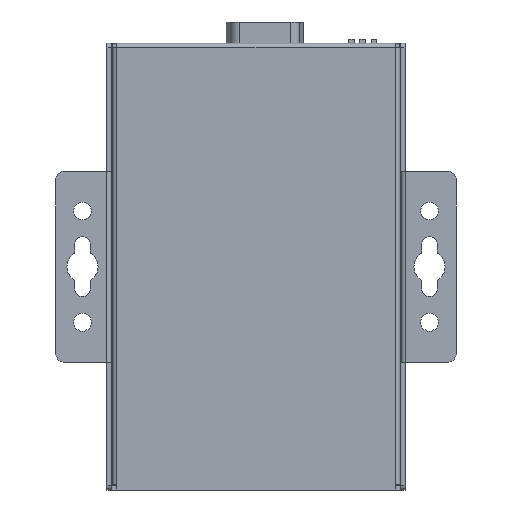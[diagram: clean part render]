
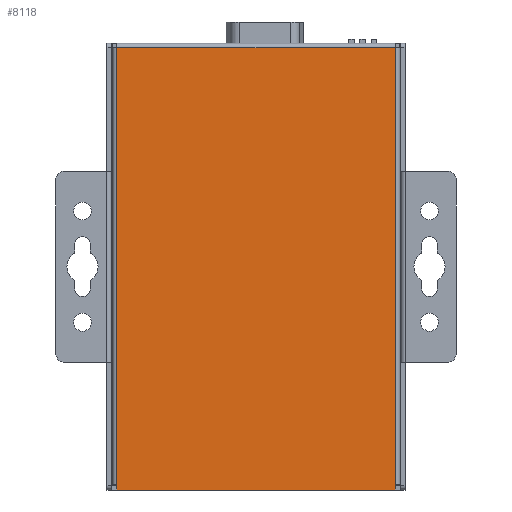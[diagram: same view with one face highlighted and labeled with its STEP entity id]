
A CAD part, front view. The second image highlights one B-rep face of the part: STEP entity #8118.
In plain terms, the highlighted planar face has unit normal (0, -1, 0).
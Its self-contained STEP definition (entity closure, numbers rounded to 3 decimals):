
#1696=DIRECTION('',(0.,0.,-1.));
#1697=VECTOR('',#1696,1.15);
#1698=CARTESIAN_POINT('',(31.35,2.,-48.55));
#1699=LINE('',#1698,#1697);
#1700=DIRECTION('',(1.,0.,0.));
#1701=VECTOR('',#1700,62.7);
#1702=CARTESIAN_POINT('',(-31.35,2.,-49.7));
#1703=LINE('',#1702,#1701);
#1704=DIRECTION('',(0.,0.,-1.));
#1705=VECTOR('',#1704,1.15);
#1706=CARTESIAN_POINT('',(-31.35,2.,-48.55));
#1707=LINE('',#1706,#1705);
#1712=DIRECTION('',(0.,0.,-1.));
#1713=VECTOR('',#1712,98.25);
#1714=CARTESIAN_POINT('',(31.35,2.,49.7));
#1715=LINE('',#1714,#1713);
#2011=DIRECTION('',(1.,0.,0.));
#2012=VECTOR('',#2011,62.7);
#2013=CARTESIAN_POINT('',(-31.35,2.,49.7));
#2014=LINE('',#2013,#2012);
#2015=DIRECTION('',(0.,0.,1.));
#2016=VECTOR('',#2015,98.25);
#2017=CARTESIAN_POINT('',(-31.35,2.,-48.55));
#2018=LINE('',#2017,#2016);
#5349=CARTESIAN_POINT('',(-31.35,2.,49.7));
#5350=VERTEX_POINT('',#5349);
#5371=CARTESIAN_POINT('',(31.35,2.,-48.55));
#5372=VERTEX_POINT('',#5371);
#5373=CARTESIAN_POINT('',(31.35,2.,49.7));
#5374=VERTEX_POINT('',#5373);
#5397=CARTESIAN_POINT('',(31.35,2.,-49.7));
#5398=VERTEX_POINT('',#5397);
#5421=CARTESIAN_POINT('',(-31.35,2.,-48.55));
#5422=VERTEX_POINT('',#5421);
#5429=CARTESIAN_POINT('',(-31.35,2.,-49.7));
#5430=VERTEX_POINT('',#5429);
#8101=CARTESIAN_POINT('',(0.,2.,0.5));
#8102=DIRECTION('',(0.,1.,0.));
#8103=DIRECTION('',(-1.,0.,0.));
#8104=AXIS2_PLACEMENT_3D('',#8101,#8102,#8103);
#8105=PLANE('',#8104);
#8107=ORIENTED_EDGE('',*,*,#8106,.T.);
#8108=ORIENTED_EDGE('',*,*,#8092,.T.);
#8109=ORIENTED_EDGE('',*,*,#7891,.F.);
#8111=ORIENTED_EDGE('',*,*,#8110,.F.);
#8113=ORIENTED_EDGE('',*,*,#8112,.T.);
#8115=ORIENTED_EDGE('',*,*,#8114,.T.);
#8116=EDGE_LOOP('',(#8107,#8108,#8109,#8111,#8113,#8115));
#8117=FACE_OUTER_BOUND('',#8116,.F.);
#8118=ADVANCED_FACE('',(#8117),#8105,.F.);
#7891=EDGE_CURVE('',#5430,#5398,#1703,.T.);
#8092=EDGE_CURVE('',#5372,#5398,#1699,.T.);
#8106=EDGE_CURVE('',#5374,#5372,#1715,.T.);
#8110=EDGE_CURVE('',#5422,#5430,#1707,.T.);
#8112=EDGE_CURVE('',#5422,#5350,#2018,.T.);
#8114=EDGE_CURVE('',#5350,#5374,#2014,.T.);
